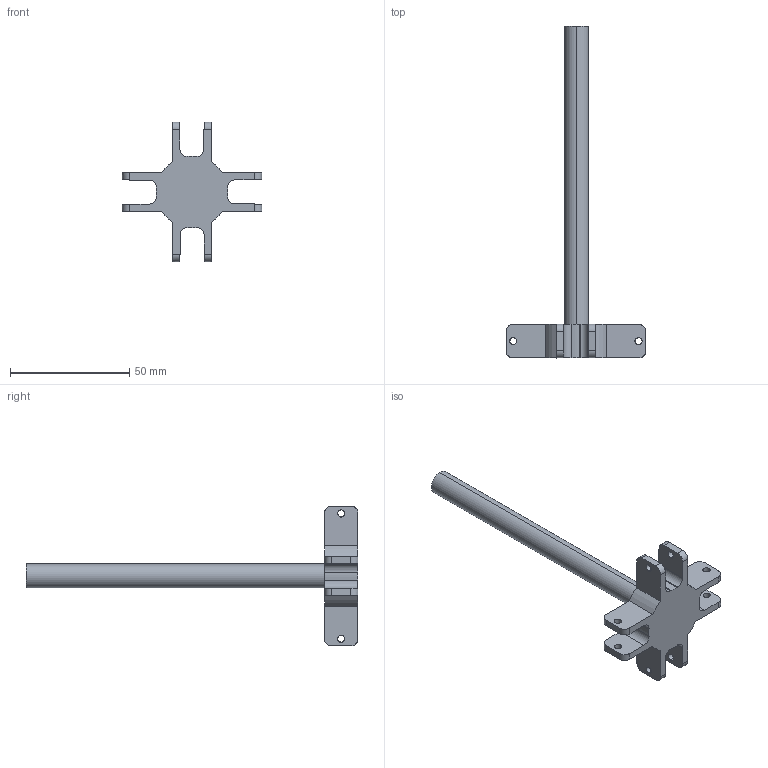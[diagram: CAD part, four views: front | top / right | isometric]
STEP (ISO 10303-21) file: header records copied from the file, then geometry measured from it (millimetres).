
FILE_DESCRIPTION (( 'STEP AP203' ), '1' );
FILE_NAME ('Part2-end effector_Default_sldprt.STEP', '2025-01-16T15:44:40', ( '' ), ( '' ), 'SwSTEP 2.0', 'SolidWorks 2020', '' );
FILE_SCHEMA (( 'CONFIG_CONTROL_DESIGN' ));
Length unit declared in the file: millimetre
Products named in the file (1): Part2-end effector_Default_sldprt
Bounding box: 58.62 x 139 x 58.62 mm (x, y, z)
Volume: 25163.7 mm3; surface area: 10722.2 mm2
Topology: 1 solids, 1 shells, 80 faces, 231 edges, 154 vertices
Faces by surface type: cylinder 53, plane 27
Entity records: 2734 total; most frequent: CARTESIAN_POINT 634, ORIENTED_EDGE 462, DIRECTION 387, EDGE_CURVE 231, VERTEX_POINT 154, AXIS2_PLACEMENT_3D 131, VECTOR 125, LINE 125
